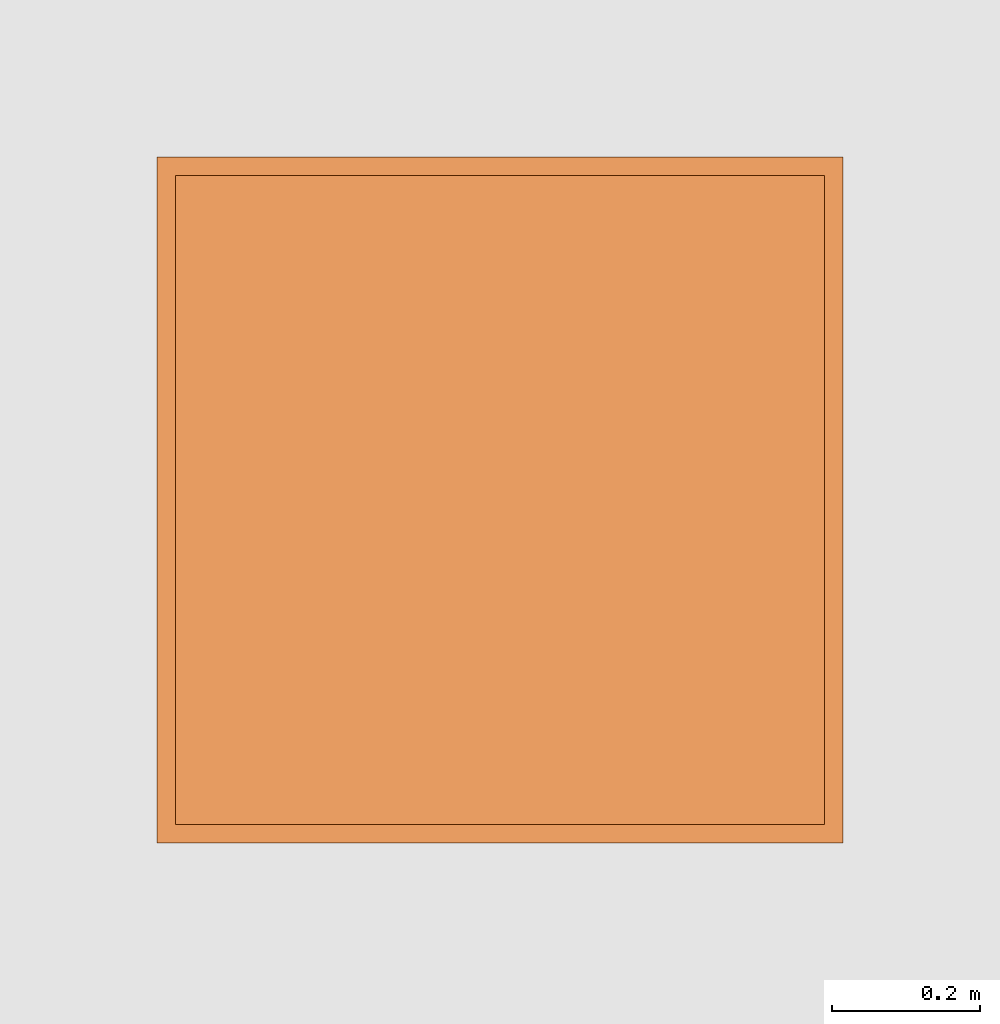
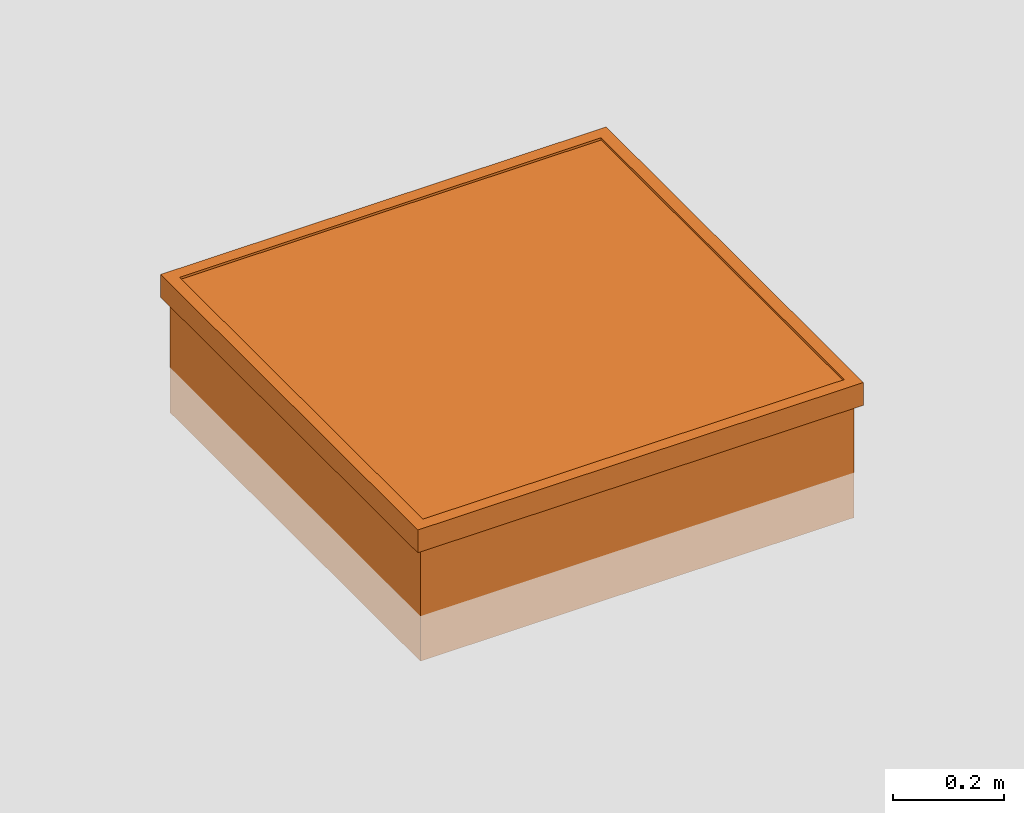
# One storey, part 3 of 3: 1 proxy.
"""IFC2X3 building model written with IfcOpenShell, lengths in millimetres."""

import ifcopenshell
import ifcopenshell.guid

model = None  # the IFC model being written
_history = None  # IfcOwnerHistory: only IFC2X3 demands one
_inside = {}  # id of a spatial element -> (the spatial element, [elements in it])
_under = {}  # id of a project, library or spatial element -> (it, [spatial elements below it])
_declared = {}  # id of a project -> (the project, [libraries it declares])
_typed = {}  # id of a type object -> (the type object, [elements of that type])
_made_of = {}  # id of a material, layer set ... -> (it, [elements and type objects made of it])


def new_model(schema):
    """Start an empty IFC model of exactly this schema.

    Asked for "IFC4X3", IfcOpenShell would pick the latest addendum, in which some entities
    have other attributes; the version numbers below select the first issue.
    IFC2X3 requires an IfcOwnerHistory on every rooted entity: one is made here for all.
    """
    global model, _history
    if schema == "IFC4X3":
        model = ifcopenshell.file(schema_version=(4, 3, 0, 0))
    else:
        model = ifcopenshell.file(schema=schema)
    _inside.clear()
    _under.clear()
    _declared.clear()
    _typed.clear()
    _made_of.clear()
    _history = None
    if model.schema == "IFC2X3":
        org = make("IfcOrganization", Name="unknown")
        user = make(
            "IfcPersonAndOrganization",
            ThePerson=make("IfcPerson", FamilyName="unknown"),
            TheOrganization=org,
        )
        app = make(
            "IfcApplication",
            ApplicationDeveloper=org,
            Version="unknown",
            ApplicationFullName="unknown",
            ApplicationIdentifier="unknown",
        )
        _history = make(
            "IfcOwnerHistory",
            OwningUser=user,
            OwningApplication=app,
            ChangeAction="ADDED",
            CreationDate=0,
        )
    return model


def make(cls, **values):
    """One entity of the class cls with the attributes given. An attribute that is None is left unset."""
    return model.create_entity(
        cls, **{name: value for name, value in values.items() if value is not None}
    )


def entity(cls, *values):
    """Any entity or typed value of the class cls, its attributes in the order of the schema. None: left unset."""
    e = model.create_entity(cls)
    for i, value in enumerate(values):
        if value is not None:
            e[i] = value
    return e


def rooted(cls, **values):
    """An entity with a GlobalId (a new one), such as an element, a storey or a relation."""
    return make(cls, GlobalId=ifcopenshell.guid.new(), OwnerHistory=_history, **values)


def si_unit(unit_type, name, prefix=None):
    """IfcSIUnit, for example si_unit("LENGTHUNIT", "METRE", prefix="MILLI")."""
    return make("IfcSIUnit", UnitType=unit_type, Prefix=prefix, Name=name)


def converted_unit(unit_type, name, factor, base, dimensions=None, offset=None):
    """IfcConversionBasedUnit, such as the inch: factor (a typed value) times the base unit."""
    return make(
        "IfcConversionBasedUnit"
        if offset is None
        else "IfcConversionBasedUnitWithOffset",
        ConversionOffset=offset,
        Dimensions=None
        if dimensions is None
        else entity("IfcDimensionalExponents", *dimensions),
        UnitType=unit_type,
        Name=name,
        ConversionFactor=make(
            "IfcMeasureWithUnit", ValueComponent=factor, UnitComponent=base
        ),
    )


def derived_unit(unit_type, elements):
    """IfcDerivedUnit: a product of units, each with its exponent."""
    return make(
        "IfcDerivedUnit",
        Elements=[
            make("IfcDerivedUnitElement", Unit=unit, Exponent=power)
            for unit, power in elements
        ],
        UnitType=unit_type,
    )


def money_unit(currency):
    """IfcMonetaryUnit."""
    return make("IfcMonetaryUnit", Currency=currency)


def assignment(units):
    """IfcUnitAssignment: the units of a project."""
    return None if units is None else make("IfcUnitAssignment", Units=units)


def point(xyz):
    """IfcCartesianPoint."""
    return None if xyz is None else make("IfcCartesianPoint", Coordinates=xyz)


def direction(xyz):
    """IfcDirection."""
    return None if xyz is None else make("IfcDirection", DirectionRatios=xyz)


def frame(location, z_axis=None, x_axis=None):
    """IfcAxis2Placement3D, a coordinate frame: its origin and axes. An axis left out is left unset."""
    return make(
        "IfcAxis2Placement3D",
        Location=point(location),
        Axis=direction(z_axis),
        RefDirection=direction(x_axis),
    )


def origin_with_axes():
    """The frame at (0, 0, 0) with the z axis (0, 0, 1) and the x axis (1, 0, 0) written out."""
    return frame((0.0, 0.0, 0.0), z_axis=(0.0, 0.0, 1.0), x_axis=(1.0, 0.0, 0.0))


def place(relative_to, where):
    """IfcLocalPlacement: puts the frame where relative to a parent placement (None: the world)."""
    return make(
        "IfcLocalPlacement", PlacementRelTo=relative_to, RelativePlacement=where
    )


def context(
    kind, dimensions, precision=None, world=None, true_north=None, identifier=None
):
    """IfcGeometricRepresentationContext, for example the 3D "Model" context."""
    return make(
        "IfcGeometricRepresentationContext",
        ContextIdentifier=identifier,
        ContextType=kind,
        CoordinateSpaceDimension=dimensions,
        Precision=precision,
        WorldCoordinateSystem=world,
        TrueNorth=true_north,
    )


def subcontext(parent, identifier, kind, view, scale=None):
    """IfcGeometricRepresentationSubContext, for example "Body" below "Model"."""
    return make(
        "IfcGeometricRepresentationSubContext",
        ContextIdentifier=identifier,
        ContextType=kind,
        ParentContext=parent,
        TargetScale=scale,
        TargetView=view,
    )


def project(units=None, contexts=None):
    """IfcProject with its units and contexts."""
    return rooted(
        "IfcProject",
        Name="project",
        RepresentationContexts=contexts,
        UnitsInContext=assignment(units),
    )


def spatial(cls, under=None, at=None, **own):
    """A site, building, storey or space (cls), placed at a placement, below another one or the project."""
    s = rooted(cls, ObjectPlacement=at, **own)
    if under is not None:
        _under.setdefault(under.id(), (under, []))[1].append(s)
    return s


def faces_of(points, faces, orient=None, outer=None):
    """IfcFace entities. A face is a list of loops; a loop is a list of indices into points, from 0.

    orient and outer hold one flag for each loop. By default every Orientation is true, the
    first loop of a face is its IfcFaceOuterBound and the others are IfcFaceBound.
    """
    made = []
    for i, loops in enumerate(faces):
        bounds = []
        for j, loop in enumerate(loops):
            is_outer = j == 0 if outer is None else outer[i][j]
            bounds.append(
                make(
                    "IfcFaceOuterBound" if is_outer else "IfcFaceBound",
                    Bound=make("IfcPolyLoop", Polygon=[points[k] for k in loop]),
                    Orientation=True if orient is None else orient[i][j],
                )
            )
        made.append(make("IfcFace", Bounds=bounds))
    return made


def faceted_brep(points, faces, orient=None, outer=None, voids=None):
    """IfcFacetedBrep: a solid bounded by flat faces; with voids (closed shells), ...WithVoids."""
    shared = [point(p) for p in points]
    hull = make("IfcClosedShell", CfsFaces=faces_of(shared, faces, orient, outer))
    if voids is None:
        return make("IfcFacetedBrep", Outer=hull)
    return make(
        "IfcFacetedBrepWithVoids",
        Outer=hull,
        Voids=[
            make(cls, CfsFaces=faces_of(shared, fs, o, b)) for cls, fs, o, b in voids
        ],
    )


def shape(context_of_items, identifier, shape_type, items):
    """IfcShapeRepresentation: the items that make up one representation, for example the "Body"."""
    return make(
        "IfcShapeRepresentation",
        ContextOfItems=context_of_items,
        RepresentationIdentifier=identifier,
        RepresentationType=shape_type,
        Items=items,
    )


def made_of(thing, what):
    """Note that an element or type object is made of a material, layer set ...; save() writes the relation."""
    if what is not None:
        _made_of.setdefault(what.id(), (what, []))[1].append(thing)
    return thing


def type_object(cls, material=None, **own):
    """A type object (cls), such as IfcWallType, which elements share."""
    return made_of(rooted(cls, **own), material)


def element(
    cls,
    number,
    at=None,
    inside=None,
    cuts=None,
    type_object=None,
    material=None,
    context=None,
    identifier="Body",
    shape_type=None,
    held_by="IfcProductDefinitionShape",
    body=None,
    shapes=None,
    **own,
):
    """One element of the class cls, such as IfcWall. Its Tag is "e" and its number.

    at: its placement. inside: the storey or other place that contains it. cuts: it is an
    opening in that element (IfcRelVoidsElement). A single representation is given by context,
    identifier, shape_type and body (its items); several are given by shapes. held_by: the class
    of the entity that holds the representations. save() writes the other relations.
    """
    e = rooted(cls, Tag="e%d" % number, ObjectPlacement=at, **own)
    if body is not None:
        shapes = [shape(context, identifier, shape_type, body)]
    if shapes is not None:
        e.Representation = make(held_by, Representations=shapes)
    if inside is not None:
        _inside.setdefault(inside.id(), (inside, []))[1].append(e)
    if cuts is not None:
        rooted(
            "IfcRelVoidsElement", RelatingBuildingElement=cuts, RelatedOpeningElement=e
        )
    if type_object is not None:
        _typed.setdefault(type_object.id(), (type_object, []))[1].append(e)
    return made_of(e, material)


def aggregate(whole, parts):
    """IfcRelAggregates: a whole, such as a stair, and the parts it consists of."""
    return rooted("IfcRelAggregates", RelatingObject=whole, RelatedObjects=parts)


def save(model, path):
    """Write the relations noted so far, then the file.

    IfcRelAggregates (storeys below a building ...), IfcRelContainedInSpatialStructure (elements
    in a storey), IfcRelDefinesByType, IfcRelAssociatesMaterial and IfcRelDeclares: one each for
    every whole, place, type object, material and project.
    """
    for whole, parts in _under.values():
        aggregate(whole, parts)
    for where, things in _inside.values():
        rooted(
            "IfcRelContainedInSpatialStructure",
            RelatedElements=things,
            RelatingStructure=where,
        )
    for kind, things in _typed.values():
        rooted("IfcRelDefinesByType", RelatedObjects=things, RelatingType=kind)
    for what, things in _made_of.values():
        rooted("IfcRelAssociatesMaterial", RelatedObjects=things, RelatingMaterial=what)
    for by, libraries in _declared.values():
        rooted("IfcRelDeclares", RelatingContext=by, RelatedDefinitions=libraries)
    model.write(path)


model = new_model("IFC2X3")

# Units and contexts
model_context = context("Model", 3, precision=0.01, world=origin_with_axes(), true_north=direction((0.0, 1.0)))
body_context = subcontext(model_context, "Body", "Model", "MODEL_VIEW")
ifc_project = project(units=[si_unit("LENGTHUNIT", "METRE", prefix="MILLI"), si_unit("AREAUNIT", "SQUARE_METRE"), si_unit("VOLUMEUNIT", "CUBIC_METRE"), converted_unit("PLANEANGLEUNIT", "DEGREE", entity("IfcPlaneAngleMeasure", 0.0174532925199), si_unit("PLANEANGLEUNIT", "RADIAN"), dimensions=[0, 0, 0, 0, 0, 0, 0]), si_unit("SOLIDANGLEUNIT", "STERADIAN"), money_unit("EUR"), converted_unit("TIMEUNIT", "Year", entity("IfcTimeMeasure", 31556926.0), si_unit("TIMEUNIT", "SECOND"), dimensions=[0, 0, 1, 0, 0, 0, 0]), si_unit("MASSUNIT", "GRAM", prefix="KILO"), si_unit("THERMODYNAMICTEMPERATUREUNIT", "DEGREE_CELSIUS"), si_unit("LUMINOUSINTENSITYUNIT", "LUMEN"), si_unit("ENERGYUNIT", "JOULE", prefix="MEGA"), derived_unit("THERMALCONDUCTANCEUNIT", [(si_unit("POWERUNIT", "WATT"), 1), (si_unit("LENGTHUNIT", "METRE"), -1), (si_unit("THERMODYNAMICTEMPERATUREUNIT", "KELVIN"), -1)]), derived_unit("SPECIFICHEATCAPACITYUNIT", [(si_unit("ENERGYUNIT", "JOULE"), 1), (si_unit("MASSUNIT", "GRAM", prefix="KILO"), -1), (si_unit("THERMODYNAMICTEMPERATUREUNIT", "KELVIN"), -1)]), derived_unit("MASSDENSITYUNIT", [(si_unit("MASSUNIT", "GRAM", prefix="KILO"), 1), (si_unit("VOLUMEUNIT", "CUBIC_METRE"), -1)])], contexts=[model_context])

# Site, building, storey
site_placement = place(None, origin_with_axes())
site = spatial("IfcSite", under=ifc_project, at=site_placement, Name="Politse- ja Piirivalveameti ning Päästeameti ühishoone", CompositionType="ELEMENT")
building_placement = place(site_placement, origin_with_axes())
building = spatial("IfcBuilding", under=site, at=building_placement, Name="Politse- ja Piirivalveameti ning Päästeameti ühishoone", CompositionType="ELEMENT")
storey_placement = place(building_placement, frame((0.0, 0.0, 10600.0), z_axis=(0.0, 0.0, 1.0), x_axis=(1.0, 0.0, 0.0)))
storey = spatial("IfcBuildingStorey", under=building, at=storey_placement, Name="Korrus +9.900", CompositionType="ELEMENT", Elevation=10600.0)

# Proxy
building_element_proxy_type = type_object("IfcBuildingElementProxyType", Name="Skylight Flat Panel 23", PredefinedType="NOTDEFINED")
proxy_placement = place(storey_placement, frame((-11356.8493849, 1800.11492383, -728.0), z_axis=(0.0, 0.0, 1.0), x_axis=(1.0, 0.0, 0.0)))
element("IfcBuildingElementProxy", 1, at=proxy_placement, inside=storey, type_object=building_element_proxy_type, Name="L-02", context=body_context, shape_type="Brep", body=[
    faceted_brep([(-438.0, 0.0, -100.0), (-438.0, 12.0, -100.0), (438.0, 12.0, -100.0), (438.0, 0.0, -100.0), (-438.0, 0.0, 0.0), (-438.0, 12.0, 0.0), (438.0, 12.0, 0.0), (438.0, 0.0, 0.0)], [[[0, 1, 2, 3]], [[0, 4, 5, 1]], [[1, 5, 6, 2]], [[3, 2, 6, 7]], [[4, 0, 3, 7]], [[5, 4, 7, 6]]]),
    faceted_brep([(-438.0, 900.0, 0.0), (-438.0, 888.0, 0.0), (438.0, 888.0, 0.0), (438.0, 900.0, 0.0), (-438.0, 900.0, -100.0), (-438.0, 888.0, -100.0), (438.0, 888.0, -100.0), (438.0, 900.0, -100.0)], [[[0, 1, 2, 3]], [[0, 4, 5, 1]], [[1, 5, 6, 2]], [[3, 2, 6, 7]], [[4, 0, 3, 7]], [[5, 4, 7, 6]]]),
    faceted_brep([(-450.0, 0.0, -100.0), (-450.0, 900.0, -100.0), (-438.0, 900.0, -100.0), (-438.0, 0.0, -100.0), (-450.0, 0.0, 0.0), (-450.0, 900.0, 0.0), (-438.0, 900.0, 0.0), (-438.0, 0.0, 0.0)], [[[0, 1, 2, 3]], [[0, 4, 5, 1]], [[1, 5, 6, 2]], [[3, 2, 6, 7]], [[4, 0, 3, 7]], [[5, 4, 7, 6]]]),
    faceted_brep([(438.0, 0.0, -100.0), (438.0, 900.0, -100.0), (450.0, 900.0, -100.0), (450.0, 0.0, -100.0), (438.0, 0.0, 0.0), (438.0, 900.0, 0.0), (450.0, 900.0, 0.0), (450.0, 0.0, 0.0)], [[[0, 1, 2, 3]], [[0, 4, 5, 1]], [[1, 5, 6, 2]], [[3, 2, 6, 7]], [[4, 0, 3, 7]], [[5, 4, 7, 6]]]),
    faceted_brep([(-450.0, 0.0, 0.0), (450.0, 0.0, 0.0), (450.0, 0.0, 150.0), (-450.0, 0.0, 150.0), (-450.0, 900.0, 0.0), (450.0, 900.0, 0.0), (-350.0, 100.0, 0.0), (350.0, 100.0, 0.0), (350.0, 800.0, 0.0), (-350.0, 800.0, 0.0), (450.0, 900.0, 150.0), (-450.0, 900.0, 150.0), (-350.0, 100.0, 150.0), (-350.0, 800.0, 150.0), (350.0, 800.0, 150.0), (350.0, 100.0, 150.0)], [[[0, 1, 2, 3]], [[0, 4, 5, 1], [6, 7, 8, 9]], [[1, 5, 10, 2]], [[3, 2, 10, 11], [12, 13, 14, 15]], [[4, 0, 3, 11]], [[5, 4, 11, 10]], [[7, 6, 12, 15]], [[8, 7, 15, 14]], [[9, 8, 14, 13]], [[6, 9, 13, 12]]]),
    faceted_brep([(-462.5, -12.5, 150.0), (462.5, -12.5, 150.0), (462.5, -12.5, 175.0), (-462.5, -12.5, 175.0), (-462.5, 912.5, 150.0), (462.5, 912.5, 150.0), (-400.0, 50.0, 150.0), (400.0, 50.0, 150.0), (400.0, 850.0, 150.0), (-400.0, 850.0, 150.0), (462.5, 912.5, 175.0), (-462.5, 912.5, 175.0), (-400.0, 50.0, 175.0), (-400.0, 850.0, 175.0), (400.0, 850.0, 175.0), (400.0, 50.0, 175.0)], [[[0, 1, 2, 3]], [[0, 4, 5, 1], [6, 7, 8, 9]], [[1, 5, 10, 2]], [[3, 2, 10, 11], [12, 13, 14, 15]], [[4, 0, 3, 11]], [[5, 4, 11, 10]], [[7, 6, 12, 15]], [[8, 7, 15, 14]], [[9, 8, 14, 13]], [[6, 9, 13, 12]]]),
    faceted_brep([(-462.5, -12.5, 175.0), (462.5, -12.5, 175.0), (462.5, -12.5, 200.0), (-462.5, -12.5, 200.0), (-462.5, 912.5, 175.0), (462.5, 912.5, 175.0), (-450.0, 0.0, 175.0), (450.0, 0.0, 175.0), (450.0, 900.0, 175.0), (-450.0, 900.0, 175.0), (462.5, 912.5, 200.0), (-462.5, 912.5, 200.0), (-450.0, 0.0, 200.0), (-450.0, 900.0, 200.0), (450.0, 900.0, 200.0), (450.0, 0.0, 200.0)], [[[0, 1, 2, 3]], [[0, 4, 5, 1], [6, 7, 8, 9]], [[1, 5, 10, 2]], [[3, 2, 10, 11], [12, 13, 14, 15]], [[4, 0, 3, 11]], [[5, 4, 11, 10]], [[7, 6, 12, 15]], [[8, 7, 15, 14]], [[9, 8, 14, 13]], [[6, 9, 13, 12]]]),
    faceted_brep([(-450.0, 0.0, 175.0), (450.0, 0.0, 175.0), (450.0, 0.0, 200.0), (-450.0, 0.0, 200.0), (-450.0, 900.0, 175.0), (450.0, 900.0, 175.0), (-437.5, 12.5, 175.0), (437.5, 12.5, 175.0), (437.5, 887.5, 175.0), (-437.5, 887.5, 175.0), (450.0, 900.0, 200.0), (-450.0, 900.0, 200.0), (-437.5, 12.5, 200.0), (-437.5, 887.5, 200.0), (437.5, 887.5, 200.0), (437.5, 12.5, 200.0)], [[[0, 1, 2, 3]], [[0, 4, 5, 1], [6, 7, 8, 9]], [[1, 5, 10, 2]], [[3, 2, 10, 11], [12, 13, 14, 15]], [[4, 0, 3, 11]], [[5, 4, 11, 10]], [[7, 6, 12, 15]], [[8, 7, 15, 14]], [[9, 8, 14, 13]], [[6, 9, 13, 12]]]),
    faceted_brep([(-437.5, 12.5, 185.0), (437.5, 12.5, 185.0), (437.5, 12.5, 195.0), (-437.5, 12.5, 195.0), (-437.5, 887.5, 185.0), (437.5, 887.5, 185.0), (437.5, 887.5, 195.0), (-437.5, 887.5, 195.0)], [[[0, 1, 2, 3]], [[0, 4, 5, 1]], [[1, 5, 6, 2]], [[3, 2, 6, 7]], [[4, 0, 3, 7]], [[5, 4, 7, 6]]]),
])

save(model, "model.ifc")
